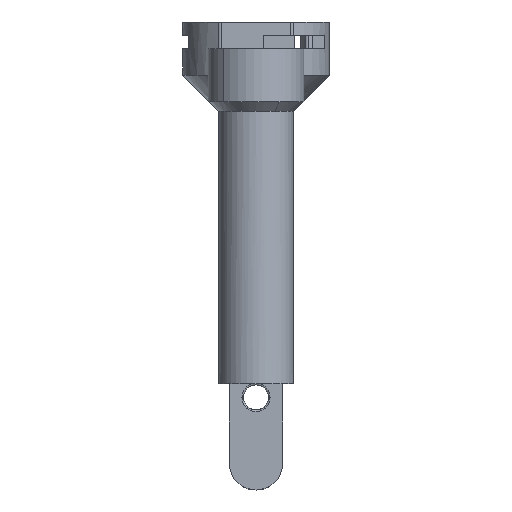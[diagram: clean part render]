
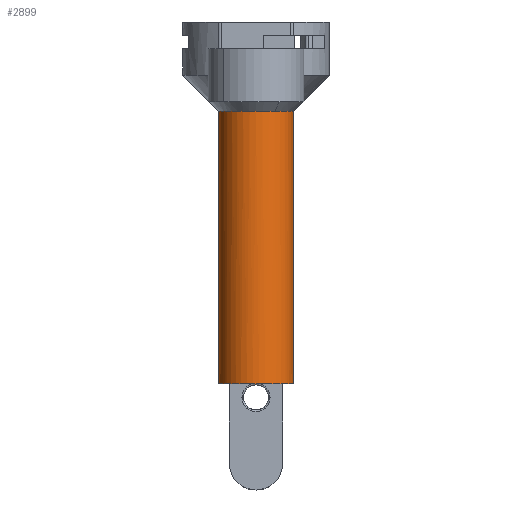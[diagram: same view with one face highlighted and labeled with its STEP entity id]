
A CAD part, front view. The second image highlights one B-rep face of the part: STEP entity #2899.
In plain terms, the highlighted cylindrical face has radius 7 mm (diameter 14 mm), a partial arc.
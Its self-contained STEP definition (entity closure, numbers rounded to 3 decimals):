
#1802=AXIS2_PLACEMENT_3D('Circle Axis2P3D',#1800,#1801,$) ;
#1924=AXIS2_PLACEMENT_3D('Circle Axis2P3D',#1922,#1923,$) ;
#1954=AXIS2_PLACEMENT_3D('Circle Axis2P3D',#1952,#1953,$) ;
#2852=AXIS2_PLACEMENT_3D('Cylinder Axis2P3D',#2849,#2850,#2851) ;
#2856=AXIS2_PLACEMENT_3D('Circle Axis2P3D',#2854,#2855,$) ;
#2865=AXIS2_PLACEMENT_3D('Circle Axis2P3D',#2863,#2864,$) ;
#2870=AXIS2_PLACEMENT_3D('Circle Axis2P3D',#2868,#2869,$) ;
#2877=AXIS2_PLACEMENT_3D('Circle Axis2P3D',#2875,#2876,$) ;
#2884=AXIS2_PLACEMENT_3D('Circle Axis2P3D',#2882,#2883,$) ;
#906=CARTESIAN_POINT('Vertex',(7.,0.,17.2)) ;
#913=CARTESIAN_POINT('Vertex',(-7.,0.,17.2)) ;
#1795=CARTESIAN_POINT('Vertex',(3.5,-6.062,17.2)) ;
#1800=CARTESIAN_POINT('Axis2P3D Location',(0.,0.,17.2)) ;
#1841=CARTESIAN_POINT('Line Origine',(7.,0.,0.)) ;
#1845=CARTESIAN_POINT('Vertex',(7.,0.,-34.)) ;
#1852=CARTESIAN_POINT('Vertex',(-7.,0.,-34.)) ;
#1855=CARTESIAN_POINT('Line Origine',(-7.,0.,0.)) ;
#1922=CARTESIAN_POINT('Axis2P3D Location',(0.,0.,17.2)) ;
#1926=CARTESIAN_POINT('Vertex',(0.,-7.,17.2)) ;
#1952=CARTESIAN_POINT('Axis2P3D Location',(0.,0.,17.2)) ;
#2849=CARTESIAN_POINT('Axis2P3D Location',(0.,0.,0.)) ;
#2854=CARTESIAN_POINT('Axis2P3D Location',(0.,0.,-34.)) ;
#2858=CARTESIAN_POINT('Vertex',(5.5,-4.33,-34.)) ;
#2860=CARTESIAN_POINT('Vertex',(5.745,-4.,-34.)) ;
#2863=CARTESIAN_POINT('Axis2P3D Location',(0.,0.,-34.)) ;
#2868=CARTESIAN_POINT('Axis2P3D Location',(0.,0.,-34.)) ;
#2872=CARTESIAN_POINT('Vertex',(-5.745,-4.,-34.)) ;
#2875=CARTESIAN_POINT('Axis2P3D Location',(0.,0.,-34.)) ;
#2879=CARTESIAN_POINT('Vertex',(-5.5,-4.33,-34.)) ;
#2882=CARTESIAN_POINT('Axis2P3D Location',(0.,0.,-34.)) ;
#1801=DIRECTION('Axis2P3D Direction',(0.,0.,1.)) ;
#1842=DIRECTION('Vector Direction',(0.,0.,1.)) ;
#1856=DIRECTION('Vector Direction',(0.,0.,1.)) ;
#1923=DIRECTION('Axis2P3D Direction',(0.,0.,1.)) ;
#1953=DIRECTION('Axis2P3D Direction',(0.,0.,1.)) ;
#2850=DIRECTION('Axis2P3D Direction',(0.,0.,1.)) ;
#2851=DIRECTION('Axis2P3D XDirection',(-1.,0.,0.)) ;
#2855=DIRECTION('Axis2P3D Direction',(0.,0.,1.)) ;
#2864=DIRECTION('Axis2P3D Direction',(0.,0.,1.)) ;
#2869=DIRECTION('Axis2P3D Direction',(0.,0.,1.)) ;
#2876=DIRECTION('Axis2P3D Direction',(0.,0.,1.)) ;
#2883=DIRECTION('Axis2P3D Direction',(0.,0.,1.)) ;
#1843=VECTOR('Line Direction',#1842,1.) ;
#1857=VECTOR('Line Direction',#1856,1.) ;
#2888=ORIENTED_EDGE('',*,*,#2862,.T.) ;
#2889=ORIENTED_EDGE('',*,*,#2867,.T.) ;
#2890=ORIENTED_EDGE('',*,*,#1847,.T.) ;
#2891=ORIENTED_EDGE('',*,*,#1804,.T.) ;
#2892=ORIENTED_EDGE('',*,*,#1928,.T.) ;
#2893=ORIENTED_EDGE('',*,*,#1956,.T.) ;
#2894=ORIENTED_EDGE('',*,*,#1859,.F.) ;
#2895=ORIENTED_EDGE('',*,*,#2874,.T.) ;
#2896=ORIENTED_EDGE('',*,*,#2881,.T.) ;
#2897=ORIENTED_EDGE('',*,*,#2886,.T.) ;
#2899=ADVANCED_FACE('\X2\96F64EF651E04F554F53\X0\',(#2898),#2853,.T.) ;
#1803=CIRCLE('generated circle',#1802,7.) ;
#1925=CIRCLE('generated circle',#1924,7.) ;
#1955=CIRCLE('generated circle',#1954,7.) ;
#2857=CIRCLE('generated circle',#2856,7.) ;
#2866=CIRCLE('generated circle',#2865,7.) ;
#2871=CIRCLE('generated circle',#2870,7.) ;
#2878=CIRCLE('generated circle',#2877,7.) ;
#2885=CIRCLE('generated circle',#2884,7.) ;
#2853=CYLINDRICAL_SURFACE('generated cylinder',#2852,7.) ;
#1804=EDGE_CURVE('',#907,#1796,#1803,.F.) ;
#1847=EDGE_CURVE('',#1846,#907,#1844,.T.) ;
#1859=EDGE_CURVE('',#1853,#914,#1858,.T.) ;
#1928=EDGE_CURVE('',#1796,#1927,#1925,.F.) ;
#1956=EDGE_CURVE('',#1927,#914,#1955,.F.) ;
#2862=EDGE_CURVE('',#2859,#2861,#2857,.T.) ;
#2867=EDGE_CURVE('',#2861,#1846,#2866,.T.) ;
#2874=EDGE_CURVE('',#1853,#2873,#2871,.T.) ;
#2881=EDGE_CURVE('',#2873,#2880,#2878,.T.) ;
#2886=EDGE_CURVE('',#2880,#2859,#2885,.T.) ;
#2887=EDGE_LOOP('',(#2888,#2889,#2890,#2891,#2892,#2893,#2894,#2895,#2896,#2897)) ;
#2898=FACE_OUTER_BOUND('',#2887,.T.) ;
#1844=LINE('Line',#1841,#1843) ;
#1858=LINE('Line',#1855,#1857) ;
#907=VERTEX_POINT('',#906) ;
#914=VERTEX_POINT('',#913) ;
#1796=VERTEX_POINT('',#1795) ;
#1846=VERTEX_POINT('',#1845) ;
#1853=VERTEX_POINT('',#1852) ;
#1927=VERTEX_POINT('',#1926) ;
#2859=VERTEX_POINT('',#2858) ;
#2861=VERTEX_POINT('',#2860) ;
#2873=VERTEX_POINT('',#2872) ;
#2880=VERTEX_POINT('',#2879) ;
